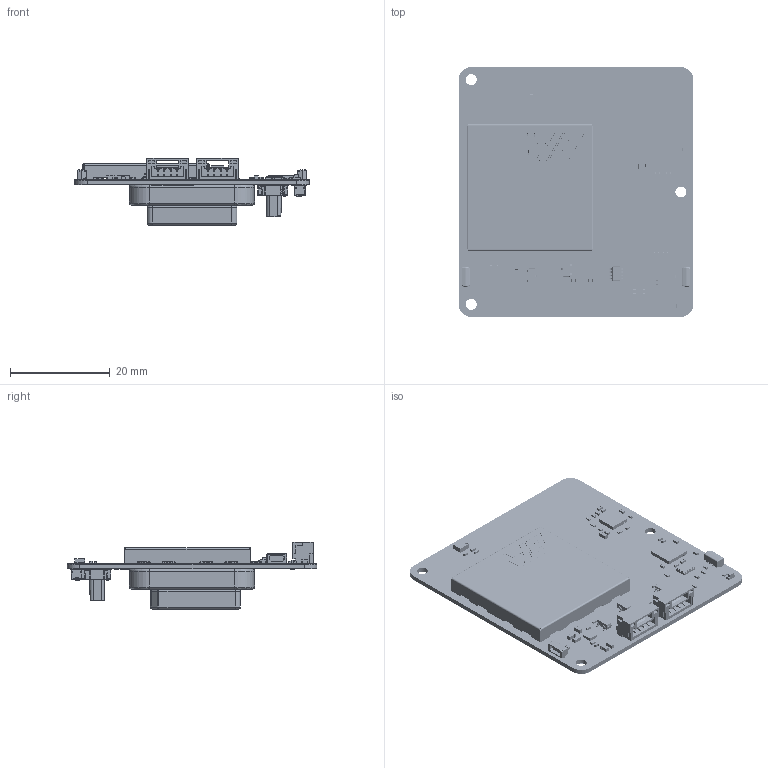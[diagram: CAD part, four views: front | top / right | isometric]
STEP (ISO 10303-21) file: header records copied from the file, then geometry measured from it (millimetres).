
FILE_DESCRIPTION(('KiCad electronic assembly'),'2;1');
FILE_NAME('Sierra-TrueNavIC-Pro.step','2025-07-14T15:08:20',('Pcbnew'),( 'Kicad'),'Open CASCADE STEP processor 7.8','KiCad to STEP converter' ,'Unknown');
FILE_SCHEMA(('AUTOMOTIVE_DESIGN { 1 0 10303 214 1 1 1 1 }'));
Length unit declared in the file: millimetre
Products named in the file (28): Sierra-TrueNavIC-Pro 1; Crystal_SMD_3225-4Pin_3.2x2.5mm_HandSoldering; C_0402_1005Metric; WS2812B-4020; C_0603_1608Metric; TMLF-8_MCH; NEO-M9N-00B; NEO-M9N_NEO-M9N; D_SOD-323F; R_0402_1005Metric; SOT-23-3; Download_STP_WE-SHC-36903255S (rev1); (13156-R01)ASIC MagIC QFN 4X4; DPS368; LED_0603_1608Metric; DSK-3R3H703T414-HLL--3DModel-STEP-1; JST_GH_SM04B-GHS-TB_1x04-1MP_P1.25mm_Horizontal; QFN-32-1EP_5x5mm_P0.5mm_EP3.45x3.45mm; DDF0008A; BODY-SO; LEAD-SO; PIN1-ID; (13101-R07)Sensor Sen-Z-f; ANT-GNCP-TH258L15; (13104-R10)Sensor, Sen-XY-f; TrueNavIC-Pro_silkscreen; TrueNavIC-Pro_soldermask; TrueNavIC-Pro_PCB
Assembly tree (85 placements, depth 3):
  Sierra-TrueNavIC-Pro 1
    Crystal_SMD_3225-4Pin_3.2x2.5mm_HandSoldering
    C_0402_1005Metric  x25
    WS2812B-4020  x2
    C_0603_1608Metric  x6
    TMLF-8_MCH
    NEO-M9N-00B
      NEO-M9N_NEO-M9N
    D_SOD-323F
    R_0402_1005Metric  x19
    SOT-23-3  x2
    Download_STP_WE-SHC-36903255S (rev1)
    (13156-R01)ASIC MagIC QFN 4X4
    DPS368
    LED_0603_1608Metric
    DSK-3R3H703T414-HLL--3DModel-STEP-1
    JST_GH_SM04B-GHS-TB_1x04-1MP_P1.25mm_Horizontal  x2
    QFN-32-1EP_5x5mm_P0.5mm_EP3.45x3.45mm
    DDF0008A
      BODY-SO
      LEAD-SO  x8
      PIN1-ID
    (13101-R07)Sensor Sen-Z-f
    ANT-GNCP-TH258L15
    (13104-R10)Sensor, Sen-XY-f  x2
    TrueNavIC-Pro_silkscreen
    TrueNavIC-Pro_soldermask
    TrueNavIC-Pro_PCB
Bounding box: 47 x 50 x 13.44 mm (x, y, z)
Volume: 6665.2 mm3; surface area: 17988.4 mm2
Topology: 171 solids, 412 shells, 8026 faces, 22121 edges, 14799 vertices
Faces by surface type: plane 3832, cylinder 2705, torus 1098, bspline 280, sphere 60, revolution 32, cone 19
Full cylindrical faces by diameter (mm): 0.103 x1, 0.5 x1, 1 x1, 2.2 x3
Entity records: 208009 total; most frequent: CARTESIAN_POINT 44304, DIRECTION 28259, ORIENTED_EDGE 26260, EDGE_CURVE 14709, VERTEX_POINT 10202, LINE 9533, VECTOR 9533, AXIS2_PLACEMENT_3D 9351
